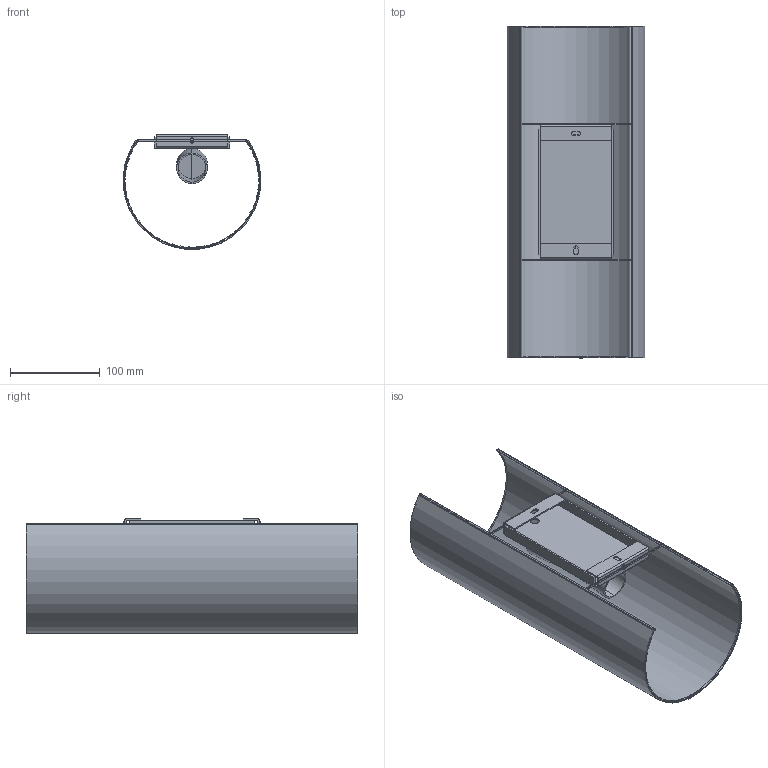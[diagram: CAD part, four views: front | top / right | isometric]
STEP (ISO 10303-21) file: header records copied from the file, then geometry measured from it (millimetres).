
FILE_DESCRIPTION(/* description */ (''),/* implementation_level */ '2;1');
FILE_NAME(/* name */ '66401-103.step',/* time_stamp */ '2024-06-28T10:13:19+02:00',/* author */ ('RenataManzini'),/* organization */ (''),/* preprocessor_version */ 'ST-DEVELOPER v20',/* originating_system */ 'AutoCAD Mechanical',/* authorisation */ '');
FILE_SCHEMA (('AUTOMOTIVE_DESIGN { 1 0 10303 214 3 1 1 }'));
Length unit declared in the file: millimetre
Products named in the file (3): Product; base_2L - BASE-479125-_3D_; pantalla_103-104 - PANTALLA-479960-_3D_
Assembly tree (2 placements, depth 2):
  Product
    base_2L - BASE-479125-_3D_
    pantalla_103-104 - PANTALLA-479960-_3D_
Bounding box: 153.45 x 370 x 127.75 mm (x, y, z)
Volume: 185376.5 mm3; surface area: 321435.9 mm2
Topology: 10 solids, 14 shells, 154 faces, 389 edges, 257 vertices
Faces by surface type: plane 90, cylinder 60, torus 4
Entity records: 5311 total; most frequent: CARTESIAN_POINT 1434, DIRECTION 816, ORIENTED_EDGE 748, EDGE_CURVE 386, AXIS2_PLACEMENT_3D 280, LINE 256, VECTOR 256, VERTEX_POINT 252
